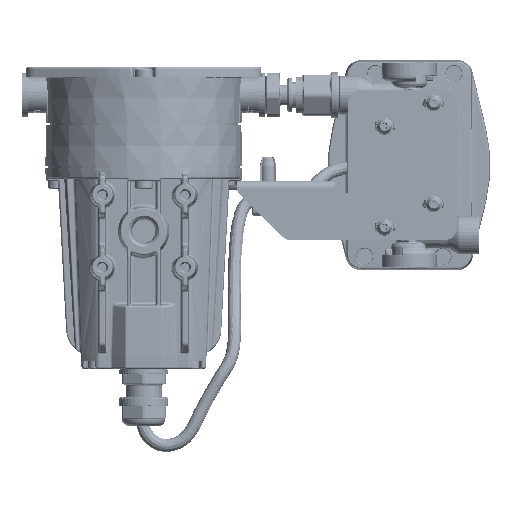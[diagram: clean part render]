
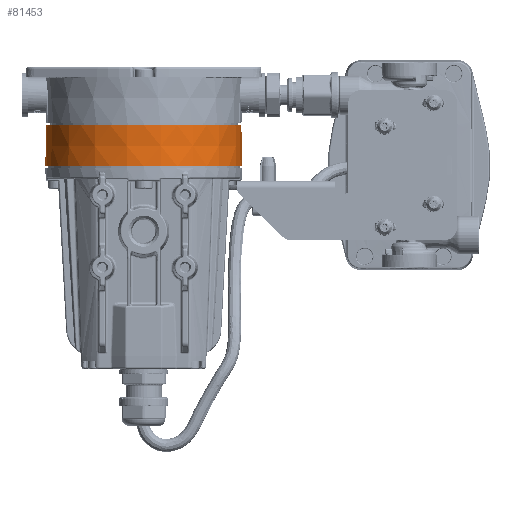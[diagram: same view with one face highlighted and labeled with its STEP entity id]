
A CAD part, front view. The second image highlights one B-rep face of the part: STEP entity #81453.
In plain terms, the highlighted conical face has half-angle 1 degrees and reference radius 37.851 mm.
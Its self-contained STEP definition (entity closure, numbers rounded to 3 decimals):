
#79348=CARTESIAN_POINT('',(0.,0.,15.9));
#79349=DIRECTION('',(0.,0.,-1.));
#79350=DIRECTION('',(1.,0.,0.));
#79351=AXIS2_PLACEMENT_3D('',#79348,#79349,#79350);
#79372=DIRECTION('',(-0.017,0.,1.));
#79373=VECTOR('',#79372,15.902);
#79374=CARTESIAN_POINT('',(37.99,0.,0.));
#79375=LINE('',#79374,#79373);
#79379=DIRECTION('',(-0.017,0.,-1.));
#79380=VECTOR('',#79379,15.902);
#79381=CARTESIAN_POINT('',(-37.712,0.,15.9));
#79382=LINE('',#79381,#79380);
#79394=CARTESIAN_POINT('',(0.,0.,0.));
#79395=DIRECTION('',(0.,0.,1.));
#79396=DIRECTION('',(-1.,0.,0.));
#79397=AXIS2_PLACEMENT_3D('',#79394,#79395,#79396);
#81002=CARTESIAN_POINT('',(37.99,0.,0.));
#81003=CARTESIAN_POINT('',(-37.99,0.,0.));
#81004=VERTEX_POINT('',#81002);
#81005=VERTEX_POINT('',#81003);
#81010=CARTESIAN_POINT('',(37.712,0.,15.9));
#81011=VERTEX_POINT('',#81010);
#81012=CARTESIAN_POINT('',(-37.712,0.,15.9));
#81013=VERTEX_POINT('',#81012);
#81442=CARTESIAN_POINT('',(0.,0.,7.95));
#81443=DIRECTION('',(0.,0.,-1.));
#81444=DIRECTION('',(-1.,0.,0.));
#81445=AXIS2_PLACEMENT_3D('',#81442,#81443,#81444);
#81446=CONICAL_SURFACE('',#81445,37.851,1.);
#81447=ORIENTED_EDGE('',*,*,#81416,.F.);
#81448=ORIENTED_EDGE('',*,*,#81405,.F.);
#81449=ORIENTED_EDGE('',*,*,#81386,.F.);
#81450=ORIENTED_EDGE('',*,*,#81402,.F.);
#81451=EDGE_LOOP('',(#81447,#81448,#81449,#81450));
#81452=FACE_OUTER_BOUND('',#81451,.F.);
#79352=CIRCLE('',#79351,37.712);
#79398=CIRCLE('',#79397,37.99);
#81386=EDGE_CURVE('',#81011,#81013,#79352,.T.);
#81402=EDGE_CURVE('',#81004,#81011,#79375,.T.);
#81405=EDGE_CURVE('',#81013,#81005,#79382,.T.);
#81416=EDGE_CURVE('',#81005,#81004,#79398,.T.);
#81453=ADVANCED_FACE('',(#81452),#81446,.T.);
